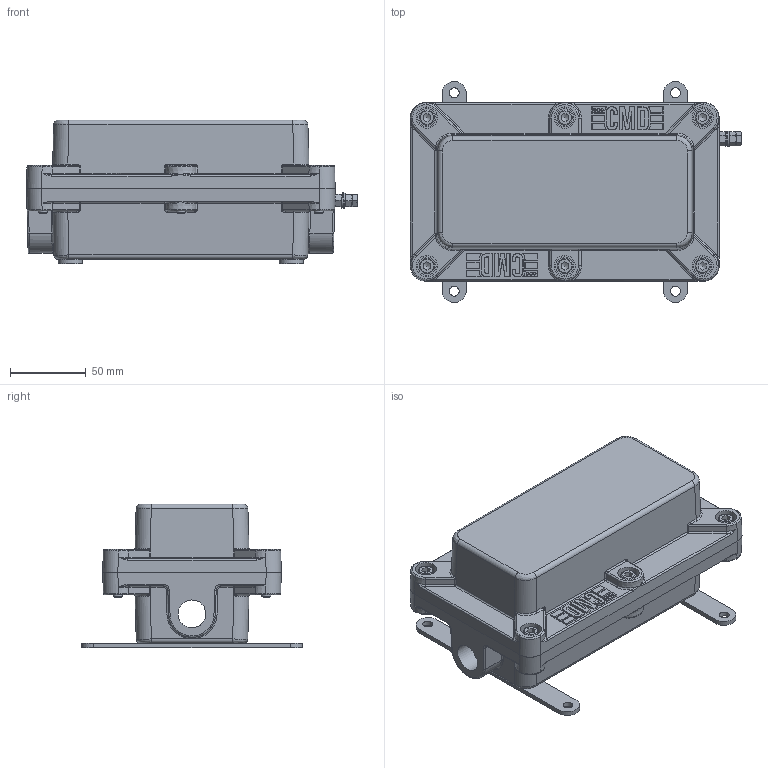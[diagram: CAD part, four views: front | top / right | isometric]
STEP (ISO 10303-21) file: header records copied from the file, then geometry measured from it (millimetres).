
FILE_DESCRIPTION(('STEP AP214'), '1');
FILE_NAME('ﾑﾌﾄ 640000 415 000 _ ﾏﾊﾂ ﾌﾊ ﾒ韵-3 Exd', '', ('UNSPECIFIED'), ('UNSPECIFIED'), 'ASCON STEP Converter 1.3', 'ASCON Math Kernel', '');
FILE_SCHEMA(('AUTOMOTIVE_DESIGN { 1 0 10303 214 3 1 1}'));
Length unit declared in the file: millimetre
Products named in the file (17): ﾑﾌﾄ 640000 415 000 ﾑﾁ; ﾑﾌﾄ 640000 415 001; ﾑﾌﾄ 640000 415 002; ﾑﾌﾄ 468626 390 008
Assembly tree (39 placements, depth 2):
  ﾑﾌﾄ 640000 415 000 ﾑﾁ
    ﾑﾌﾄ 640000 415 001
    ﾑﾌﾄ 640000 415 002
    (unnamed)
    (unnamed)
    (unnamed)
    (unnamed)
    ﾑﾌﾄ 468626 390 008  x2
    (unnamed)  x2
    (unnamed)  x2
    (unnamed)  x4
    (unnamed)  x2
    (unnamed)  x2
    (unnamed)
    (unnamed)  x6
    (unnamed)  x6
    (unnamed)  x6
Bounding box: 218.56 x 146 x 95 mm (x, y, z)
Volume: 746528.7 mm3; surface area: 204598.7 mm2
Topology: 39 solids, 39 shells, 1743 faces, 4445 edges, 2788 vertices
Faces by surface type: plane 709, bspline 539, cylinder 351, torus 77, cone 63, sphere 4
Full cylindrical faces by diameter (mm): 3.242 x2, 4 x2, 4.134 x7, 4.5 x4, 4.917 x6, 5 x5, 5.2 x4, 5.5 x2, 6 x6, 6.5 x10, 6.6 x6, 8 x2, 9 x4, 9.2 x4, 10 x8, 12 x6, 14 x6, 18.376 x2
Entity records: 96824 total; most frequent: CARTESIAN_POINT 49805, ORIENTED_EDGE 7716, DIRECTION 5229, EDGE_CURVE 3858, VERTEX_POINT 2472, LINE 1901, VECTOR 1901, EDGE_LOOP 1712
